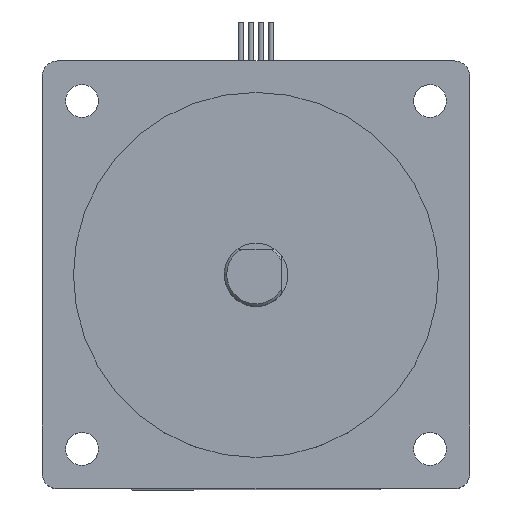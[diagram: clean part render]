
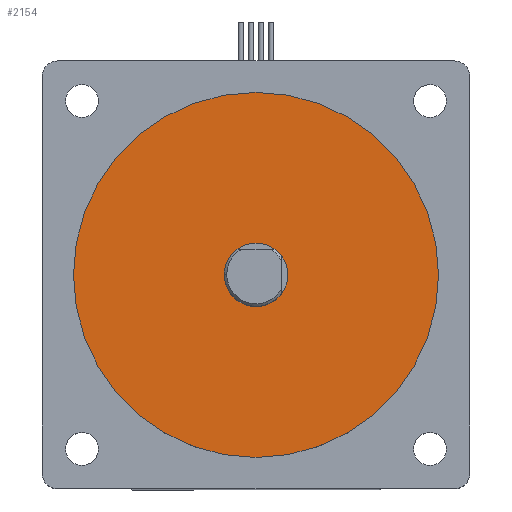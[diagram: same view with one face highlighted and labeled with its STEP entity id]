
A CAD part, top view. The second image highlights one B-rep face of the part: STEP entity #2154.
In plain terms, the highlighted planar face has unit normal (0, 0, 1).
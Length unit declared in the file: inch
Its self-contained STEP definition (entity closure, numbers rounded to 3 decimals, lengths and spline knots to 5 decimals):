
#225=CARTESIAN_POINT('',(-1.4375,0.,5.08));
#226=VERTEX_POINT('',#225);
#242=CARTESIAN_POINT('',(1.4375,0.,5.08));
#243=VERTEX_POINT('',#242);
#250=CARTESIAN_POINT('',(0.0,0.0,5.08));
#251=DIRECTION('',(0.0,0.0,-1.0));
#252=DIRECTION('',(-1.0,0.0,0.0));
#253=AXIS2_PLACEMENT_3D('',#250,#251,#252);
#254=CIRCLE('',#253,1.4375);
#255=EDGE_CURVE('',#243,#226,#254,.T.);
#433=CARTESIAN_POINT('',(-0.25,0.,5.08));
#434=VERTEX_POINT('',#433);
#443=CARTESIAN_POINT('',(0.25,0.,5.08));
#444=VERTEX_POINT('',#443);
#445=CARTESIAN_POINT('',(0.0,0.0,5.08));
#446=DIRECTION('',(0.0,0.0,1.0));
#447=DIRECTION('',(-1.0,0.0,0.0));
#448=AXIS2_PLACEMENT_3D('',#445,#446,#447);
#449=CIRCLE('',#448,0.25);
#450=EDGE_CURVE('',#434,#444,#449,.T.);
#787=CARTESIAN_POINT('',(0.0,0.0,5.08));
#788=DIRECTION('',(0.0,0.0,1.0));
#789=DIRECTION('',(-1.0,0.0,0.0));
#790=AXIS2_PLACEMENT_3D('',#787,#788,#789);
#791=CIRCLE('',#790,0.25);
#792=EDGE_CURVE('',#444,#434,#791,.T.);
#2135=CARTESIAN_POINT('',(0.0,0.0,5.08));
#2136=DIRECTION('',(0.0,0.0,-1.0));
#2137=DIRECTION('',(-1.0,0.0,0.0));
#2138=AXIS2_PLACEMENT_3D('',#2135,#2136,#2137);
#2139=PLANE('',#2138);
#2140=ORIENTED_EDGE('',*,*,#255,.F.);
#2141=CARTESIAN_POINT('',(0.0,0.0,5.08));
#2142=DIRECTION('',(0.0,0.0,-1.0));
#2143=DIRECTION('',(-1.0,0.0,0.0));
#2144=AXIS2_PLACEMENT_3D('',#2141,#2142,#2143);
#2145=CIRCLE('',#2144,1.4375);
#2146=EDGE_CURVE('',#226,#243,#2145,.T.);
#2147=ORIENTED_EDGE('',*,*,#2146,.F.);
#2148=EDGE_LOOP('',(#2140,#2147));
#2149=FACE_OUTER_BOUND('',#2148,.T.);
#2150=ORIENTED_EDGE('',*,*,#792,.F.);
#2151=ORIENTED_EDGE('',*,*,#450,.F.);
#2152=EDGE_LOOP('',(#2150,#2151));
#2153=FACE_BOUND('',#2152,.T.);
#2154=ADVANCED_FACE('',(#2149,#2153),#2139,.F.);
